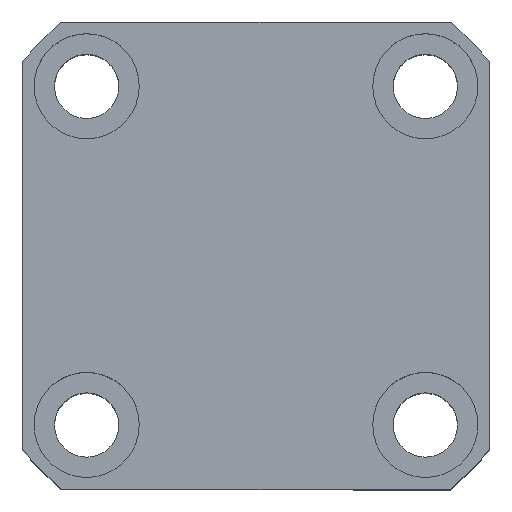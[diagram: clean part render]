
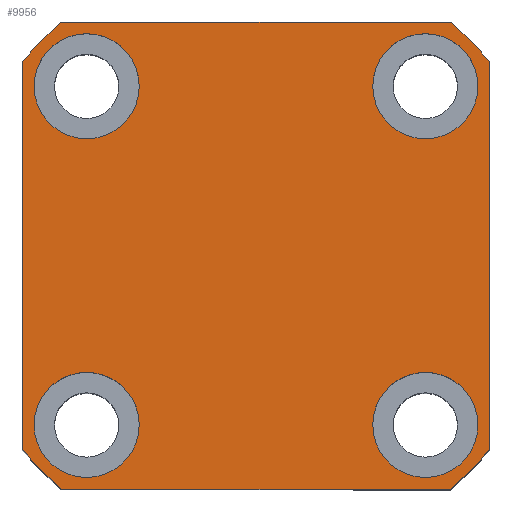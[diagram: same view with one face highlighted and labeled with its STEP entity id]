
A CAD part, top view. The second image highlights one B-rep face of the part: STEP entity #9956.
In plain terms, the highlighted planar face has unit normal (0, 0, 1).
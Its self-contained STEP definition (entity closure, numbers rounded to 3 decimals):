
#46 = AXIS2_PLACEMENT_3D ( 'NONE', #11201, #2356, #11245 ) ;
#56 = DIRECTION ( 'NONE',  ( 0., 0., 1. ) ) ;
#177 = AXIS2_PLACEMENT_3D ( 'NONE', #1036, #11933, #3217 ) ;
#338 = CIRCLE ( 'NONE', #3693, 9. ) ;
#727 = AXIS2_PLACEMENT_3D ( 'NONE', #11248, #4695, #5813 ) ;
#786 = VERTEX_POINT ( 'NONE', #5123 ) ;
#903 = ORIENTED_EDGE ( 'NONE', *, *, #9855, .F. ) ;
#923 = DIRECTION ( 'NONE',  ( 1., 0., 0. ) ) ;
#962 = EDGE_CURVE ( 'NONE', #9553, #12785, #4093, .T. ) ;
#1010 = VECTOR ( 'NONE', #1098, 1000. ) ;
#1036 = CARTESIAN_POINT ( 'NONE',  ( 0., 0., 42.5 ) ) ;
#1093 = VERTEX_POINT ( 'NONE', #13920 ) ;
#1098 = DIRECTION ( 'NONE',  ( 0., -1., 0. ) ) ;
#1158 = EDGE_CURVE ( 'NONE', #6053, #13832, #13843, .T. ) ;
#1204 = FACE_BOUND ( 'NONE', #5754, .T. ) ;
#1215 = EDGE_CURVE ( 'NONE', #12766, #11122, #7542, .T. ) ;
#1376 = LINE ( 'NONE', #4954, #5474 ) ;
#1430 = CARTESIAN_POINT ( 'NONE',  ( -40., 33.226, 42.5 ) ) ;
#1488 = EDGE_CURVE ( 'NONE', #13832, #11280, #1376, .T. ) ;
#1528 = CARTESIAN_POINT ( 'NONE',  ( -33.226, 40., 42.5 ) ) ;
#1562 = CIRCLE ( 'NONE', #4091, 9. ) ;
#1600 = CIRCLE ( 'NONE', #5622, 9. ) ;
#1723 = EDGE_CURVE ( 'NONE', #11479, #10142, #1871, .T. ) ;
#1777 = DIRECTION ( 'NONE',  ( 0., 1., 0. ) ) ;
#1831 = DIRECTION ( 'NONE',  ( 1., 0., 0. ) ) ;
#1871 = CIRCLE ( 'NONE', #14104, 52. ) ;
#1961 = DIRECTION ( 'NONE',  ( 0., 0., 1. ) ) ;
#2079 = CARTESIAN_POINT ( 'NONE',  ( 38., 29., 42.5 ) ) ;
#2191 = AXIS2_PLACEMENT_3D ( 'NONE', #10724, #13846, #5290 ) ;
#2237 = FACE_BOUND ( 'NONE', #2762, .T. ) ;
#2258 = EDGE_CURVE ( 'NONE', #12785, #9553, #1562, .T. ) ;
#2308 = EDGE_LOOP ( 'NONE', ( #12128, #11771, #4577, #7997, #7704, #6741, #8180, #8970 ) ) ;
#2356 = DIRECTION ( 'NONE',  ( 0., 0., 1. ) ) ;
#2437 = CARTESIAN_POINT ( 'NONE',  ( 0., 0., 42.5 ) ) ;
#2477 = CARTESIAN_POINT ( 'NONE',  ( -33.226, -40., 42.5 ) ) ;
#2611 = CIRCLE ( 'NONE', #9592, 52. ) ;
#2762 = EDGE_LOOP ( 'NONE', ( #4429, #12134 ) ) ;
#3045 = CARTESIAN_POINT ( 'NONE',  ( 40., -33.226, 42.5 ) ) ;
#3217 = DIRECTION ( 'NONE',  ( 1., 0., 0. ) ) ;
#3227 = CARTESIAN_POINT ( 'NONE',  ( -40., 33.226, 42.5 ) ) ;
#3241 = DIRECTION ( 'NONE',  ( 1., 0., 0. ) ) ;
#3462 = AXIS2_PLACEMENT_3D ( 'NONE', #9375, #4920, #13546 ) ;
#3693 = AXIS2_PLACEMENT_3D ( 'NONE', #13973, #12762, #1831 ) ;
#3713 = EDGE_CURVE ( 'NONE', #10142, #6053, #11105, .T. ) ;
#3721 = CARTESIAN_POINT ( 'NONE',  ( 33.226, 40., 42.5 ) ) ;
#3779 = EDGE_CURVE ( 'NONE', #4997, #11479, #9074, .T. ) ;
#3955 = DIRECTION ( 'NONE',  ( 0., 0., 1. ) ) ;
#4091 = AXIS2_PLACEMENT_3D ( 'NONE', #4138, #11790, #7233 ) ;
#4093 = CIRCLE ( 'NONE', #3462, 9. ) ;
#4138 = CARTESIAN_POINT ( 'NONE',  ( -29., -29., 42.5 ) ) ;
#4429 = ORIENTED_EDGE ( 'NONE', *, *, #4827, .F. ) ;
#4498 = CARTESIAN_POINT ( 'NONE',  ( 29., -29., 42.5 ) ) ;
#4504 = EDGE_CURVE ( 'NONE', #6801, #6711, #338, .T. ) ;
#4577 = ORIENTED_EDGE ( 'NONE', *, *, #1158, .T. ) ;
#4695 = DIRECTION ( 'NONE',  ( 0., 0., 1. ) ) ;
#4827 = EDGE_CURVE ( 'NONE', #13350, #1093, #1600, .T. ) ;
#4861 = DIRECTION ( 'NONE',  ( 1., 0., 0. ) ) ;
#4896 = CARTESIAN_POINT ( 'NONE',  ( 29., 29., 42.5 ) ) ;
#4920 = DIRECTION ( 'NONE',  ( 0., 0., 1. ) ) ;
#4954 = CARTESIAN_POINT ( 'NONE',  ( -33.226, -40., 42.5 ) ) ;
#4997 = VERTEX_POINT ( 'NONE', #3721 ) ;
#5123 = CARTESIAN_POINT ( 'NONE',  ( -20., 29., 42.5 ) ) ;
#5255 = EDGE_CURVE ( 'NONE', #11122, #4997, #2611, .T. ) ;
#5260 = DIRECTION ( 'NONE',  ( 0., 0., 1. ) ) ;
#5290 = DIRECTION ( 'NONE',  ( 1., 0., 0. ) ) ;
#5332 = CARTESIAN_POINT ( 'NONE',  ( -33.226, 40., 42.5 ) ) ;
#5349 = CIRCLE ( 'NONE', #46, 52. ) ;
#5474 = VECTOR ( 'NONE', #8318, 1000. ) ;
#5525 = DIRECTION ( 'NONE',  ( 1., 0., 0. ) ) ;
#5622 = AXIS2_PLACEMENT_3D ( 'NONE', #8522, #1961, #3241 ) ;
#5754 = EDGE_LOOP ( 'NONE', ( #11463, #5964 ) ) ;
#5813 = DIRECTION ( 'NONE',  ( 1., 0., 0. ) ) ;
#5964 = ORIENTED_EDGE ( 'NONE', *, *, #11673, .F. ) ;
#6053 = VERTEX_POINT ( 'NONE', #7533 ) ;
#6461 = EDGE_CURVE ( 'NONE', #11280, #12766, #5349, .T. ) ;
#6538 = CARTESIAN_POINT ( 'NONE',  ( 0., 0., 42.5 ) ) ;
#6706 = FACE_OUTER_BOUND ( 'NONE', #2308, .T. ) ;
#6711 = VERTEX_POINT ( 'NONE', #11706 ) ;
#6741 = ORIENTED_EDGE ( 'NONE', *, *, #1215, .T. ) ;
#6801 = VERTEX_POINT ( 'NONE', #12929 ) ;
#6948 = ORIENTED_EDGE ( 'NONE', *, *, #962, .F. ) ;
#7163 = EDGE_LOOP ( 'NONE', ( #903, #9710 ) ) ;
#7233 = DIRECTION ( 'NONE',  ( 1., 0., 0. ) ) ;
#7497 = VERTEX_POINT ( 'NONE', #11869 ) ;
#7533 = CARTESIAN_POINT ( 'NONE',  ( -40., -33.226, 42.5 ) ) ;
#7542 = LINE ( 'NONE', #13767, #7705 ) ;
#7652 = CARTESIAN_POINT ( 'NONE',  ( -38., -29., 42.5 ) ) ;
#7704 = ORIENTED_EDGE ( 'NONE', *, *, #6461, .T. ) ;
#7705 = VECTOR ( 'NONE', #1777, 1000. ) ;
#7997 = ORIENTED_EDGE ( 'NONE', *, *, #1488, .T. ) ;
#8070 = FACE_BOUND ( 'NONE', #7163, .T. ) ;
#8092 = DIRECTION ( 'NONE',  ( -1., 0., 0. ) ) ;
#8180 = ORIENTED_EDGE ( 'NONE', *, *, #5255, .T. ) ;
#8318 = DIRECTION ( 'NONE',  ( 1., 0., 0. ) ) ;
#8430 = CARTESIAN_POINT ( 'NONE',  ( 0., 0., 42.5 ) ) ;
#8522 = CARTESIAN_POINT ( 'NONE',  ( 29., 29., 42.5 ) ) ;
#8970 = ORIENTED_EDGE ( 'NONE', *, *, #3779, .T. ) ;
#9074 = LINE ( 'NONE', #1528, #10751 ) ;
#9261 = AXIS2_PLACEMENT_3D ( 'NONE', #8430, #3955, #12702 ) ;
#9374 = EDGE_CURVE ( 'NONE', #7497, #786, #13697, .T. ) ;
#9375 = CARTESIAN_POINT ( 'NONE',  ( -29., -29., 42.5 ) ) ;
#9553 = VERTEX_POINT ( 'NONE', #10801 ) ;
#9592 = AXIS2_PLACEMENT_3D ( 'NONE', #2437, #11023, #9927 ) ;
#9710 = ORIENTED_EDGE ( 'NONE', *, *, #9374, .F. ) ;
#9711 = AXIS2_PLACEMENT_3D ( 'NONE', #4896, #11408, #4861 ) ;
#9855 = EDGE_CURVE ( 'NONE', #786, #7497, #11633, .T. ) ;
#9927 = DIRECTION ( 'NONE',  ( 1., 0., 0. ) ) ;
#9956 = ADVANCED_FACE ( 'NONE', ( #1204, #10603, #8070, #2237, #6706 ), #11892, .T. ) ;
#10142 = VERTEX_POINT ( 'NONE', #1430 ) ;
#10603 = FACE_BOUND ( 'NONE', #13571, .T. ) ;
#10724 = CARTESIAN_POINT ( 'NONE',  ( -29., 29., 42.5 ) ) ;
#10751 = VECTOR ( 'NONE', #8092, 1000. ) ;
#10801 = CARTESIAN_POINT ( 'NONE',  ( -20., -29., 42.5 ) ) ;
#11023 = DIRECTION ( 'NONE',  ( 0., 0., 1. ) ) ;
#11073 = CARTESIAN_POINT ( 'NONE',  ( 40., 33.226, 42.5 ) ) ;
#11105 = LINE ( 'NONE', #3227, #1010 ) ;
#11122 = VERTEX_POINT ( 'NONE', #11073 ) ;
#11201 = CARTESIAN_POINT ( 'NONE',  ( 0., 0., 42.5 ) ) ;
#11245 = DIRECTION ( 'NONE',  ( 1., 0., 0. ) ) ;
#11248 = CARTESIAN_POINT ( 'NONE',  ( -29., 29., 42.5 ) ) ;
#11280 = VERTEX_POINT ( 'NONE', #11451 ) ;
#11319 = EDGE_CURVE ( 'NONE', #1093, #13350, #13735, .T. ) ;
#11408 = DIRECTION ( 'NONE',  ( 0., 0., 1. ) ) ;
#11451 = CARTESIAN_POINT ( 'NONE',  ( 33.226, -40., 42.5 ) ) ;
#11463 = ORIENTED_EDGE ( 'NONE', *, *, #4504, .F. ) ;
#11479 = VERTEX_POINT ( 'NONE', #5332 ) ;
#11633 = CIRCLE ( 'NONE', #2191, 9. ) ;
#11673 = EDGE_CURVE ( 'NONE', #6711, #6801, #12875, .T. ) ;
#11706 = CARTESIAN_POINT ( 'NONE',  ( 20., -29., 42.5 ) ) ;
#11771 = ORIENTED_EDGE ( 'NONE', *, *, #3713, .T. ) ;
#11790 = DIRECTION ( 'NONE',  ( 0., 0., 1. ) ) ;
#11869 = CARTESIAN_POINT ( 'NONE',  ( -38., 29., 42.5 ) ) ;
#11892 = PLANE ( 'NONE',  #177 ) ;
#11933 = DIRECTION ( 'NONE',  ( 0., 0., 1. ) ) ;
#12128 = ORIENTED_EDGE ( 'NONE', *, *, #1723, .T. ) ;
#12134 = ORIENTED_EDGE ( 'NONE', *, *, #11319, .F. ) ;
#12702 = DIRECTION ( 'NONE',  ( 1., 0., 0. ) ) ;
#12762 = DIRECTION ( 'NONE',  ( 0., 0., 1. ) ) ;
#12766 = VERTEX_POINT ( 'NONE', #3045 ) ;
#12785 = VERTEX_POINT ( 'NONE', #7652 ) ;
#12875 = CIRCLE ( 'NONE', #13827, 9. ) ;
#12929 = CARTESIAN_POINT ( 'NONE',  ( 38., -29., 42.5 ) ) ;
#13027 = ORIENTED_EDGE ( 'NONE', *, *, #2258, .F. ) ;
#13350 = VERTEX_POINT ( 'NONE', #2079 ) ;
#13546 = DIRECTION ( 'NONE',  ( 1., 0., 0. ) ) ;
#13571 = EDGE_LOOP ( 'NONE', ( #6948, #13027 ) ) ;
#13697 = CIRCLE ( 'NONE', #727, 9. ) ;
#13735 = CIRCLE ( 'NONE', #9711, 9. ) ;
#13767 = CARTESIAN_POINT ( 'NONE',  ( 40., 33.226, 42.5 ) ) ;
#13827 = AXIS2_PLACEMENT_3D ( 'NONE', #4498, #56, #5525 ) ;
#13832 = VERTEX_POINT ( 'NONE', #2477 ) ;
#13843 = CIRCLE ( 'NONE', #9261, 52. ) ;
#13846 = DIRECTION ( 'NONE',  ( 0., 0., 1. ) ) ;
#13920 = CARTESIAN_POINT ( 'NONE',  ( 20., 29., 42.5 ) ) ;
#13973 = CARTESIAN_POINT ( 'NONE',  ( 29., -29., 42.5 ) ) ;
#14104 = AXIS2_PLACEMENT_3D ( 'NONE', #6538, #5260, #923 ) ;
